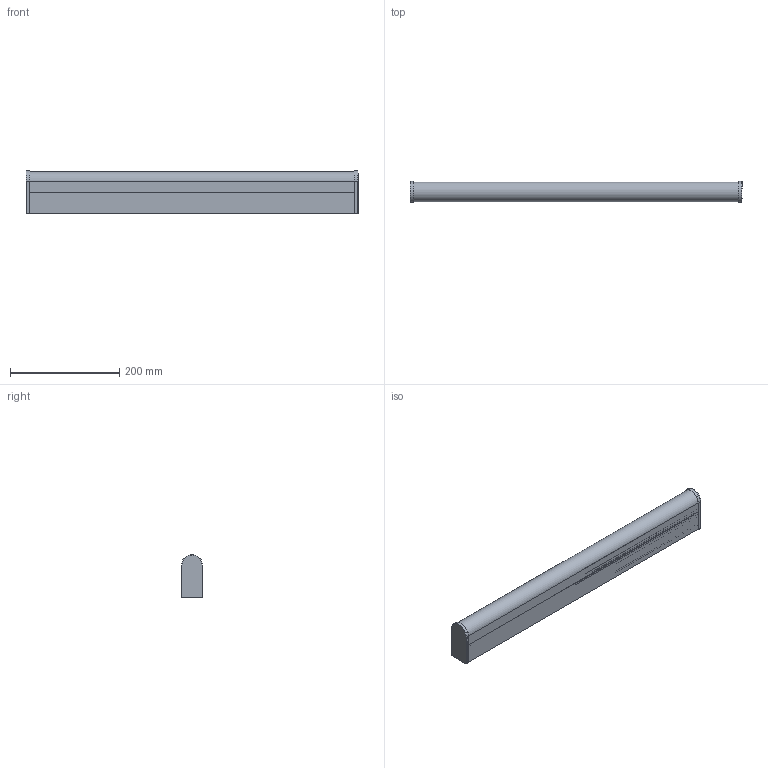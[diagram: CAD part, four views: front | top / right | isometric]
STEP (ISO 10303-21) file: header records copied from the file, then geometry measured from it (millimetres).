
FILE_DESCRIPTION(/* description */ (''),/* implementation_level */ '2;1');
FILE_NAME(/* name */ '63522.step',/* time_stamp */ '2024-05-27T10:16:51+02:00',/* author */ ('RenataManzini'),/* organization */ (''),/* preprocessor_version */ 'ST-DEVELOPER v20',/* originating_system */ 'AutoCAD Mechanical',/* authorisation */ '');
FILE_SCHEMA (('AUTOMOTIVE_DESIGN { 1 0 10303 214 3 1 1 }'));
Length unit declared in the file: millimetre
Products named in the file (2): Product; Pieza_600_tide - Lamp Holder-703565-_3D_
Assembly tree (1 placements, depth 2):
  Product
    Pieza_600_tide - Lamp Holder-703565-_3D_
Bounding box: 607.4 x 38.5 x 78.32 mm (x, y, z)
Volume: 267227.1 mm3; surface area: 401190.3 mm2
Topology: 11 solids, 11 shells, 572 faces, 1401 edges, 937 vertices
Faces by surface type: plane 536, cylinder 36
Entity records: 16604 total; most frequent: CARTESIAN_POINT 2914, ORIENTED_EDGE 2796, DIRECTION 2624, EDGE_CURVE 1398, LINE 1328, VECTOR 1328, VERTEX_POINT 932, EDGE_LOOP 656
